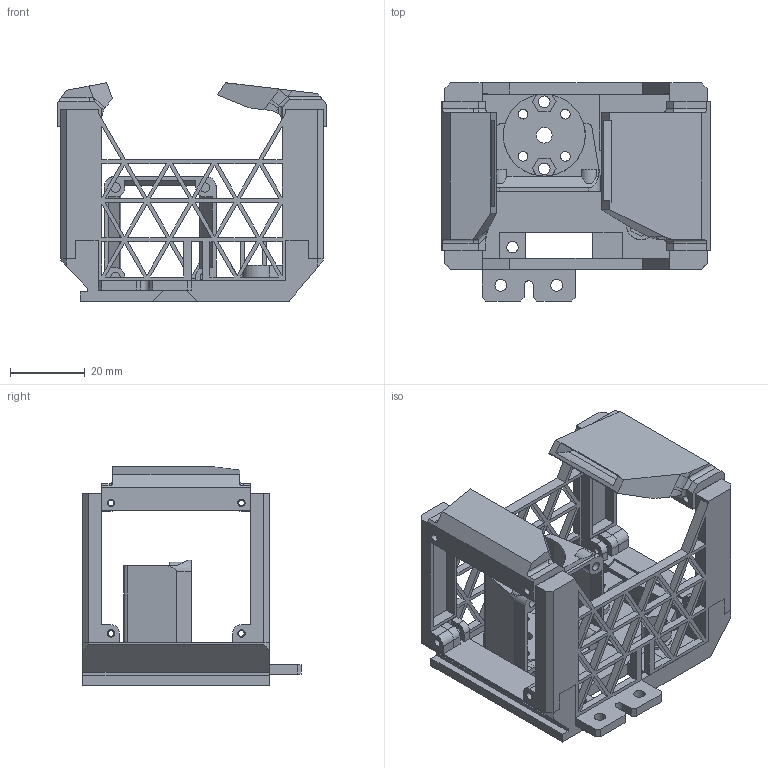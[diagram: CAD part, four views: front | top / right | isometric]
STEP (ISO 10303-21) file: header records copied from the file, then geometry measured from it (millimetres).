
FILE_DESCRIPTION(('STEP AP203'), '1');
FILE_NAME('Head for FBG5', '2025-11-23T07:34:59', ('User'), (''), 'C3D Converter', 'C3D Toolkit', '');
FILE_SCHEMA(('CONFIG_CONTROL_DESIGN'));
Length unit declared in the file: millimetre
Assembly tree (7 placements, depth 2):
  (unnamed)
    (unnamed)
    (unnamed)
    (unnamed)
    (unnamed)
    (unnamed)
    (unnamed)
    (unnamed)
Bounding box: 72.4 x 58.5 x 58.6 mm (x, y, z)
Volume: 31325.2 mm3; surface area: 36436.1 mm2
Topology: 7 solids, 7 shells, 697 faces, 2023 edges, 1338 vertices
Faces by surface type: plane 554, cylinder 121, cone 10, bspline 10, extrusion 2
Full cylindrical faces by diameter (mm): 1.5 x16, 2 x12, 2.5 x4, 2.6 x4, 3.1 x9, 3.5 x2, 4 x2, 4.2 x1, 5.3 x4, 6 x2, 8 x2
Entity records: 24764 total; most frequent: CARTESIAN_POINT 5899, ORIENTED_EDGE 3912, DIRECTION 3472, EDGE_CURVE 1956, VECTOR 1646, LINE 1644, VERTEX_POINT 1337, EDGE_LOOP 963
